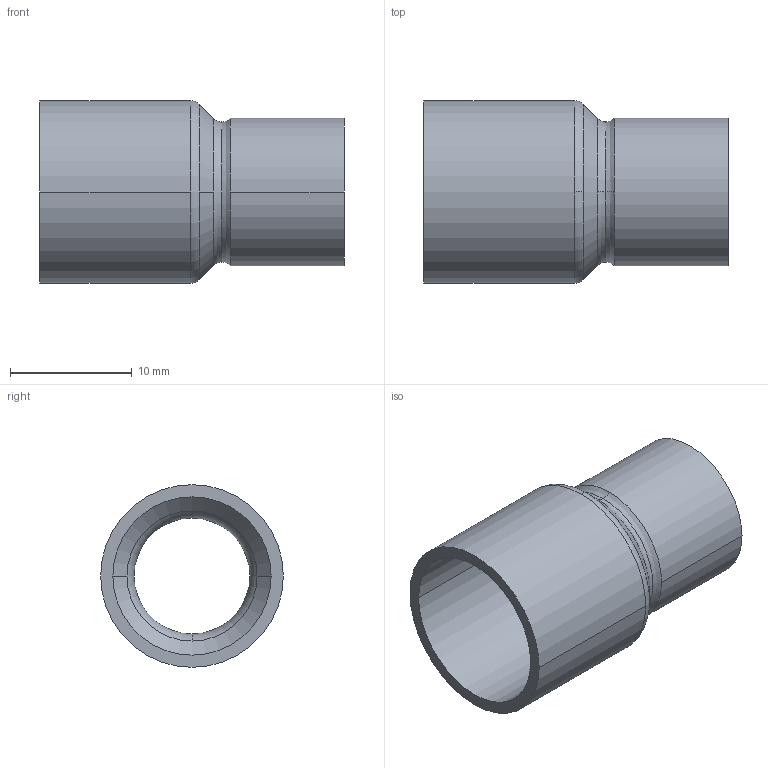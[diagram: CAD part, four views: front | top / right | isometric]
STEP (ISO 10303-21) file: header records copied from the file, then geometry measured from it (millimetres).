
FILE_DESCRIPTION((''),'2;1');
FILE_NAME('G:\Technics\CAD\Bauteile\Serie 15243\152431510.stp','2005-10-21T12:49:31',('boden'),(''),'Autodesk Inventor 8','Autodesk Inventor 8','');
FILE_SCHEMA(('AUTOMOTIVE_DESIGN { 1 0 10303 214 1 1 1 1 }'));
Length unit declared in the file: millimetre
Products named in the file (1): 152431510
Bounding box: 25 x 15 x 15 mm (x, y, z)
Volume: 1018 mm3; surface area: 2115.1 mm2
Topology: 1 solids, 1 shells, 24 faces, 60 edges, 38 vertices
Faces by surface type: cylinder 8, torus 6, bspline 4, cone 4, plane 2
Entity records: 931 total; most frequent: CARTESIAN_POINT 299, DIRECTION 150, ORIENTED_EDGE 120, AXIS2_PLACEMENT_3D 69, EDGE_CURVE 60, CIRCLE 48, VERTEX_POINT 38, EDGE_LOOP 26
